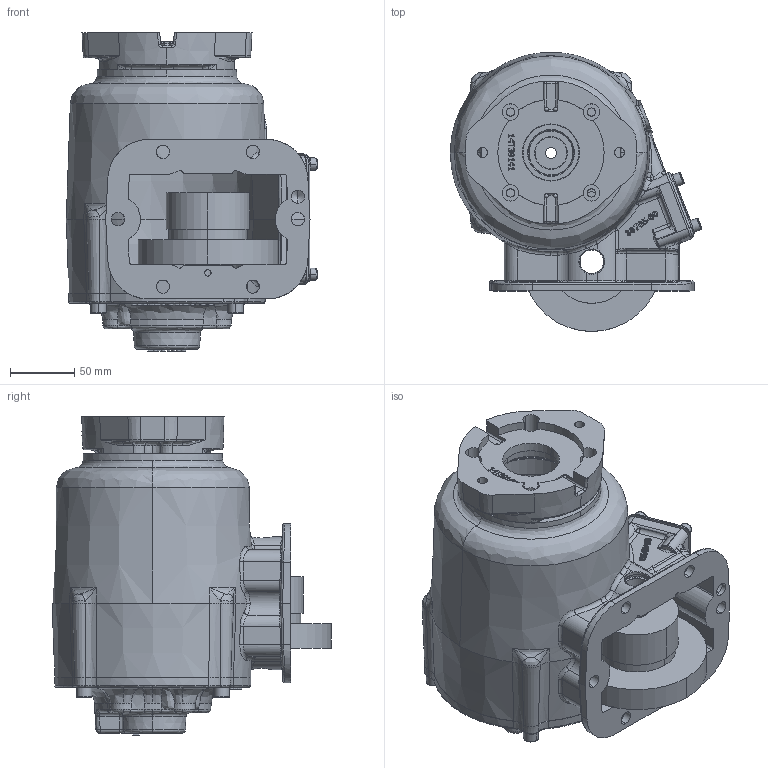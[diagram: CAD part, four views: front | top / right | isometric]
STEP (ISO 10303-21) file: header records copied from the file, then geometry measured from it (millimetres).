
FILE_DESCRIPTION (( 'STEP AP203' ), '1' );
FILE_NAME ('CS6S-XXXXX-X3RX.STEP', '2011-11-29T20:02:28', ( 'User' ), ( 'Muncie Power Products, Inc.' ), 'SwSTEP 2.0', 'SolidWorks 2011', '' );
FILE_SCHEMA (( 'CONFIG_CONTROL_DESIGN' ));
Length unit declared in the file: inch
Products named in the file (3): CS6S-XXXXX-X3RX; 14T39141; CS6S-XXXXX-X3DX
Assembly tree (2 placements, depth 2):
  CS6S-XXXXX-X3RX
    CS6S-XXXXX-X3DX
    14T39141
Bounding box: 195.33 x 216.75 x 247.66 mm (x, y, z)
Volume: 1522525.9 mm3; surface area: 391647.5 mm2
Topology: 13 solids, 13 shells, 2162 faces, 5582 edges, 3478 vertices
Faces by surface type: bspline 946, plane 535, cylinder 414, cone 218, torus 36, sphere 13
Entity records: 145736 total; most frequent: CARTESIAN_POINT 100193, ORIENTED_EDGE 10992, DIRECTION 6584, EDGE_CURVE 5496, VERTEX_POINT 3478, EDGE_LOOP 2364, B_SPLINE_CURVE_WITH_KNOTS 2252, AXIS2_PLACEMENT_3D 2225
